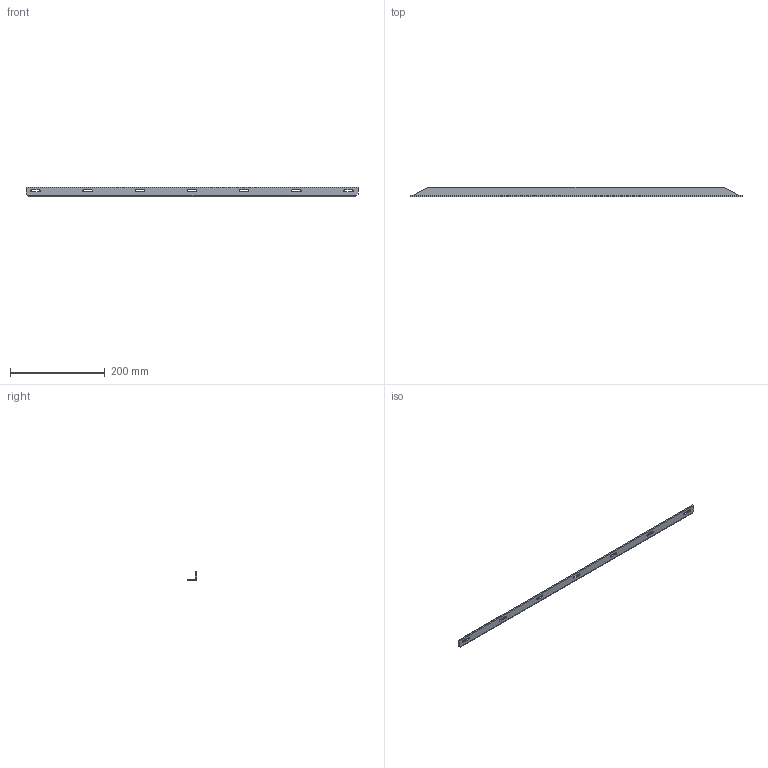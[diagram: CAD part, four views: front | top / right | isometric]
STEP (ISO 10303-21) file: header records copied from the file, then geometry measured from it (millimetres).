
FILE_DESCRIPTION (( 'STEP AP214' ), '1' );
FILE_NAME ('E446-700.STEP', '2024-12-11T22:59:06', ( '' ), ( '' ), 'SwSTEP 2.0', 'SolidWorks 2024', '' );
FILE_SCHEMA (( 'AUTOMOTIVE_DESIGN' ));
Length unit declared in the file: millimetre
Products named in the file (1): E446-700
Bounding box: 700 x 20 x 20 mm (x, y, z)
Volume: 71461.5 mm3; surface area: 52960.4 mm2
Topology: 1 solids, 1 shells, 96 faces, 262 edges, 172 vertices
Faces by surface type: plane 68, cylinder 22, bspline 6
Entity records: 3179 total; most frequent: CARTESIAN_POINT 713, ORIENTED_EDGE 524, DIRECTION 468, EDGE_CURVE 262, LINE 206, VECTOR 206, VERTEX_POINT 172, AXIS2_PLACEMENT_3D 131
